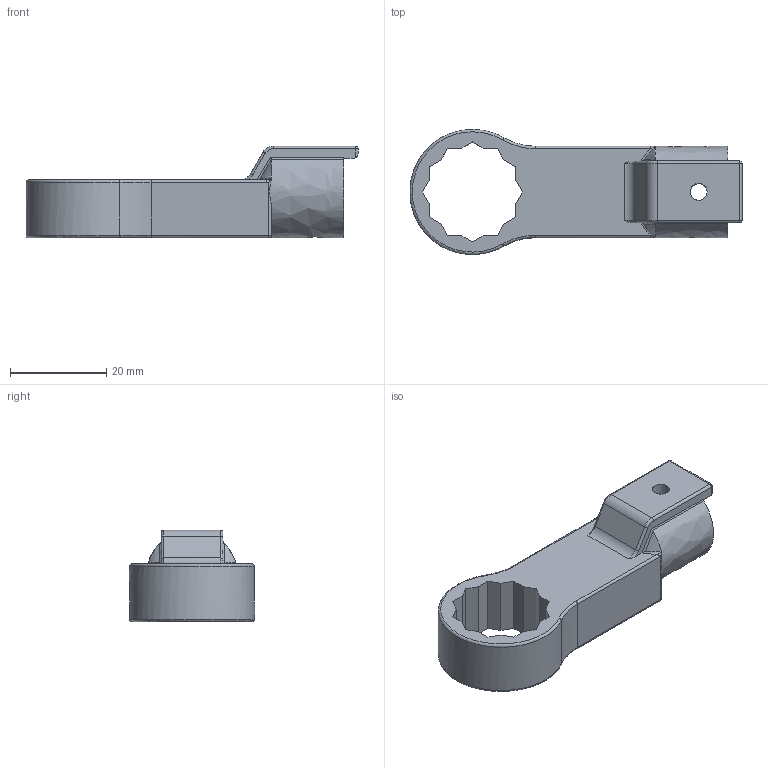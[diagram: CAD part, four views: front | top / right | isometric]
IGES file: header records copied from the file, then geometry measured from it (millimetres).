
Global section: file name: RH12DX18; native system: Autodesk Inventor 2016; preprocessor: unknown; author: Q532; date: 20151110.160833; units: millimetre
Bounding box: 68.98 x 25.99 x 19 mm (x, y, z)
Volume: 11766.9 mm3; surface area: 5633.9 mm2
Topology: 1 solids, 1 shells, 95 faces, 256 edges, 159 vertices
Faces by surface type: bspline 95
